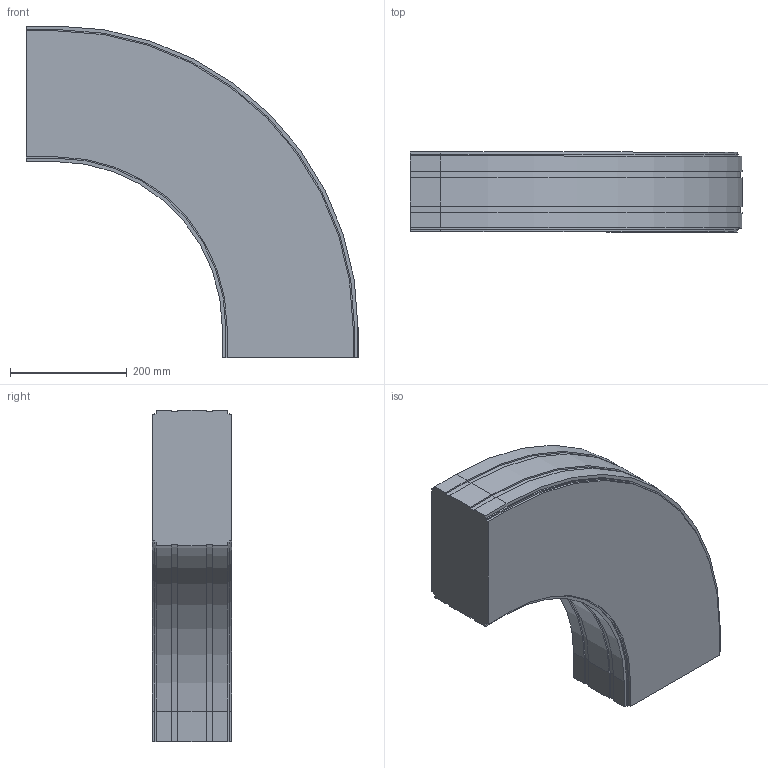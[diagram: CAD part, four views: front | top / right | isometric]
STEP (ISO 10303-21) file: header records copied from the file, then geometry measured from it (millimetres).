
FILE_DESCRIPTION (( 'STEP AP214' ), '1' );
FILE_NAME ('FS-MTC2-150-INOX horizontaalbocht.230 90°.STEP', '2017-02-08T12:40:24', ( '' ), ( '' ), 'SwSTEP 2.0', 'SolidWorks 2016', '' );
FILE_SCHEMA (( 'AUTOMOTIVE_DESIGN' ));
Length unit declared in the file: millimetre
Products named in the file (1): FS-MTC2-150-INOX horizontaalbocht.230 90°
Bounding box: 568.75 x 136.5 x 568.75 mm (x, y, z)
Volume: 23045598.1 mm3; surface area: 618708.3 mm2
Topology: 1 solids, 1 shells, 74 faces, 216 edges, 144 vertices
Faces by surface type: plane 56, cylinder 18
Entity records: 2470 total; most frequent: CARTESIAN_POINT 435, ORIENTED_EDGE 432, DIRECTION 402, EDGE_CURVE 216, LINE 180, VECTOR 180, VERTEX_POINT 144, AXIS2_PLACEMENT_3D 111
